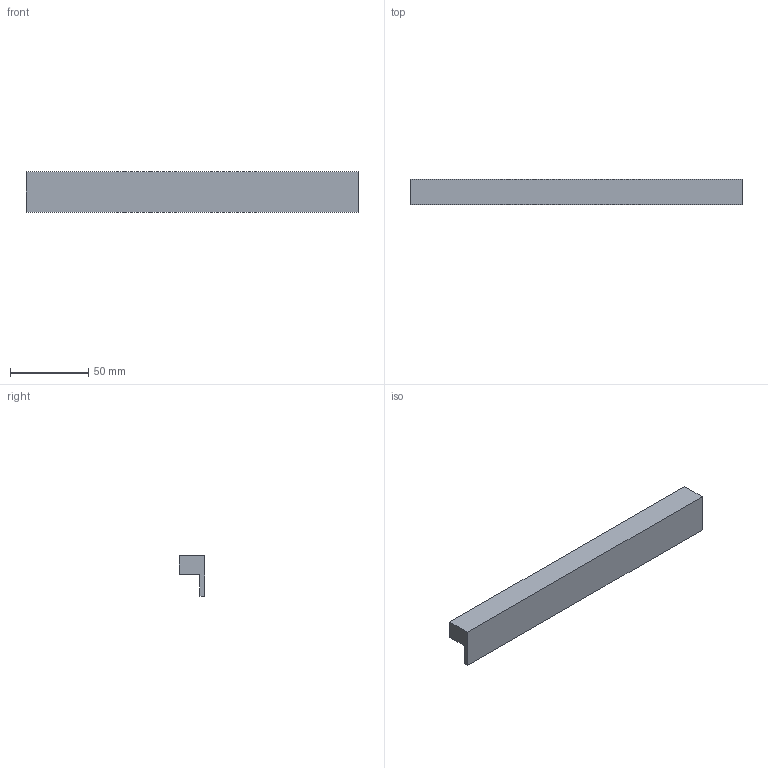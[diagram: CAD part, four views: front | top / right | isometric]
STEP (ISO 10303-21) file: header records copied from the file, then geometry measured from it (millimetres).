
FILE_DESCRIPTION( ( 'STEP AP214' ), '1' );
FILE_NAME( 'D:/Shahbaz D&D/Task/Check and correct handles with 3 drill sockets/Trani/9209005.stp', '2023-02-20T11:29:47', ( '' ), ( '' ), ' ', 'PARTsolutions', ' ' );
FILE_SCHEMA( ( 'AUTOMOTIVE_DESIGN { 1 0 10303 214 1 1 1 1 }' ) );
Length unit declared in the file: millimetre
Products named in the file (1): _9209005
Bounding box: 212 x 16 x 26 mm (x, y, z)
Volume: 49293.8 mm3; surface area: 18527.3 mm2
Topology: 1 solids, 1 shells, 12 faces, 24 edges, 16 vertices
Faces by surface type: plane 10, cylinder 2
Full cylindrical faces by diameter (mm): 5 x2
Entity records: 414 total; most frequent: DIRECTION 52, CARTESIAN_POINT 51, ORIENTED_EDGE 44, EDGE_CURVE 22, LINE 18, VECTOR 18, AXIS2_PLACEMENT_3D 17, EDGE_LOOP 16
